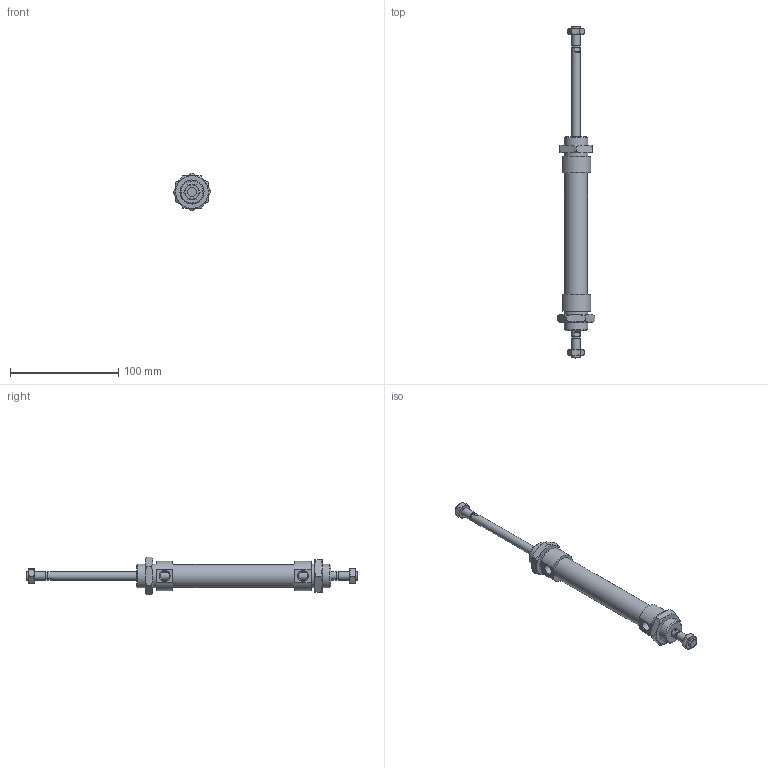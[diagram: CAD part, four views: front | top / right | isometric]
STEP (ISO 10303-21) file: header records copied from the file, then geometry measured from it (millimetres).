
FILE_DESCRIPTION((''),'2;1');
FILE_NAME('I:\Area Tecnica\Disegni\VARIE-3D\Componenti\1280\1282_##_####_#\1282_20_0075.iam.stp','2009-06-03T15:25:14',(''),(''),'Autodesk Inventor 2010','Autodesk Inventor 2010','');
FILE_SCHEMA(('AUTOMOTIVE_DESIGN { 1 0 10303 214 1 1 1 1 }'));
Length unit declared in the file: millimetre
Products named in the file (5): 1282_20_0075; C1282_20_75; S1282_20_75; 1200_20_05; 1200_20_06
Assembly tree (6 placements, depth 2):
  1282_20_0075
    C1282_20_75
    S1282_20_75
    1200_20_05  x2
    1200_20_06  x2
Bounding box: 34.64 x 306 x 34.64 mm (x, y, z)
Volume: 82912.6 mm3; surface area: 31440.2 mm2
Topology: 6 solids, 6 shells, 141 faces, 309 edges, 184 vertices
Faces by surface type: plane 60, cone 52, bspline 18, cylinder 11
Full cylindrical faces by diameter (mm): 6.5 x2, 8 x4, 21.2 x1, 22 x2
Entity records: 2813 total; most frequent: CARTESIAN_POINT 727, DIRECTION 386, ORIENTED_EDGE 352, EDGE_CURVE 176, AXIS2_PLACEMENT_3D 169, EDGE_LOOP 132, VERTEX_POINT 116, STYLED_ITEM 99
